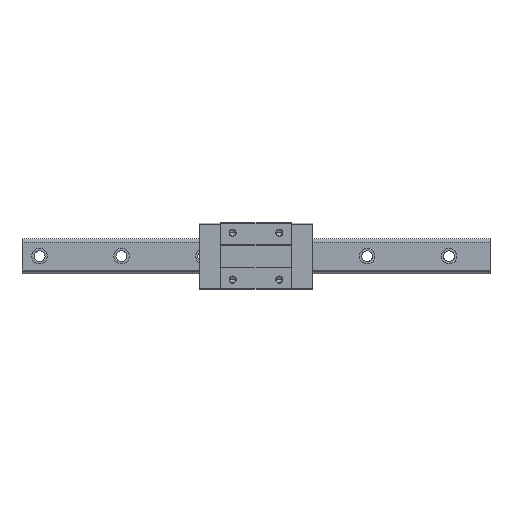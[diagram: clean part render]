
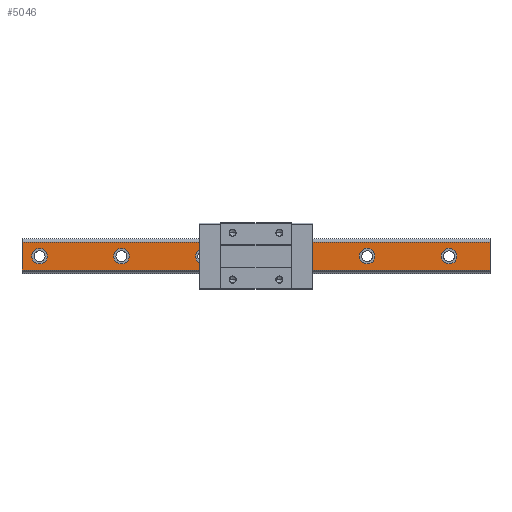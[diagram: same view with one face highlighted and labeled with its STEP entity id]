
A CAD part, top view. The second image highlights one B-rep face of the part: STEP entity #5046.
In plain terms, the highlighted planar face has unit normal (0, 0, 1).
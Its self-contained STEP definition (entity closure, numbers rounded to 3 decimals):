
#26 = ORIENTED_EDGE ( 'NONE', *, *, #5568, .F. ) ;
#131 = DIRECTION ( 'NONE',  ( 1., 0., 0. ) ) ;
#139 = EDGE_CURVE ( 'NONE', #282, #4780, #4176, .T. ) ;
#154 = DIRECTION ( 'NONE',  ( 0., 0., 1. ) ) ;
#172 = CARTESIAN_POINT ( 'NONE',  ( 142.5, 0., 32. ) ) ;
#255 = DIRECTION ( 'NONE',  ( 1., 0., 0. ) ) ;
#272 = CARTESIAN_POINT ( 'NONE',  ( -172.5, 0., 32. ) ) ;
#282 = VERTEX_POINT ( 'NONE', #5027 ) ;
#398 = CARTESIAN_POINT ( 'NONE',  ( 47.5, 0., 32. ) ) ;
#424 = CARTESIAN_POINT ( 'NONE',  ( 300., -17.696, 32. ) ) ;
#434 = CARTESIAN_POINT ( 'NONE',  ( -277.5, 0., 32. ) ) ;
#468 = EDGE_LOOP ( 'NONE', ( #1373, #3272 ) ) ;
#502 = VECTOR ( 'NONE', #4221, 1000. ) ;
#530 = DIRECTION ( 'NONE',  ( 0., 0., 1. ) ) ;
#579 = VERTEX_POINT ( 'NONE', #1427 ) ;
#591 = EDGE_CURVE ( 'NONE', #4317, #985, #3707, .T. ) ;
#646 = AXIS2_PLACEMENT_3D ( 'NONE', #4868, #2243, #5318 ) ;
#733 = CARTESIAN_POINT ( 'NONE',  ( -287.5, 0., 32. ) ) ;
#743 = DIRECTION ( 'NONE',  ( 0., 0., 1. ) ) ;
#759 = DIRECTION ( 'NONE',  ( 1., 0., 0. ) ) ;
#769 = DIRECTION ( 'NONE',  ( 0., 0., 1. ) ) ;
#825 = AXIS2_PLACEMENT_3D ( 'NONE', #4891, #1961, #4105 ) ;
#847 = LINE ( 'NONE', #2502, #502 ) ;
#861 = ORIENTED_EDGE ( 'NONE', *, *, #2532, .F. ) ;
#873 = AXIS2_PLACEMENT_3D ( 'NONE', #5426, #5567, #3930 ) ;
#898 = EDGE_LOOP ( 'NONE', ( #1861, #26 ) ) ;
#940 = VERTEX_POINT ( 'NONE', #1087 ) ;
#968 = DIRECTION ( 'NONE',  ( 0., 0., 1. ) ) ;
#985 = VERTEX_POINT ( 'NONE', #2293 ) ;
#1019 = ORIENTED_EDGE ( 'NONE', *, *, #1551, .F. ) ;
#1057 = CARTESIAN_POINT ( 'NONE',  ( -77.5, 0., 32. ) ) ;
#1087 = CARTESIAN_POINT ( 'NONE',  ( 237.5, 0., 32. ) ) ;
#1099 = ORIENTED_EDGE ( 'NONE', *, *, #4135, .F. ) ;
#1220 = CIRCLE ( 'NONE', #2142, 10. ) ;
#1373 = ORIENTED_EDGE ( 'NONE', *, *, #4866, .F. ) ;
#1413 = EDGE_LOOP ( 'NONE', ( #3062, #1019 ) ) ;
#1427 = CARTESIAN_POINT ( 'NONE',  ( -57.5, 0., 32. ) ) ;
#1429 = CARTESIAN_POINT ( 'NONE',  ( 37.5, 0., 32. ) ) ;
#1505 = CIRCLE ( 'NONE', #873, 10. ) ;
#1551 = EDGE_CURVE ( 'NONE', #1993, #2125, #2122, .T. ) ;
#1601 = CARTESIAN_POINT ( 'NONE',  ( 300., -17.696, 32. ) ) ;
#1631 = ORIENTED_EDGE ( 'NONE', *, *, #4007, .F. ) ;
#1699 = VERTEX_POINT ( 'NONE', #4172 ) ;
#1708 = CARTESIAN_POINT ( 'NONE',  ( -300., -17.696, 32. ) ) ;
#1738 = AXIS2_PLACEMENT_3D ( 'NONE', #172, #3651, #255 ) ;
#1837 = AXIS2_PLACEMENT_3D ( 'NONE', #2637, #968, #3974 ) ;
#1861 = ORIENTED_EDGE ( 'NONE', *, *, #3904, .F. ) ;
#1905 = FACE_BOUND ( 'NONE', #4383, .T. ) ;
#1961 = DIRECTION ( 'NONE',  ( 0., 0., -1. ) ) ;
#1985 = DIRECTION ( 'NONE',  ( 0., 0., 1. ) ) ;
#1993 = VERTEX_POINT ( 'NONE', #733 ) ;
#2008 = AXIS2_PLACEMENT_3D ( 'NONE', #434, #743, #2957 ) ;
#2010 = FACE_BOUND ( 'NONE', #1413, .T. ) ;
#2042 = CARTESIAN_POINT ( 'NONE',  ( -67.5, 0., 32. ) ) ;
#2072 = VERTEX_POINT ( 'NONE', #398 ) ;
#2094 = CIRCLE ( 'NONE', #3264, 10. ) ;
#2097 = LINE ( 'NONE', #424, #5379 ) ;
#2122 = CIRCLE ( 'NONE', #2484, 10. ) ;
#2125 = VERTEX_POINT ( 'NONE', #5524 ) ;
#2142 = AXIS2_PLACEMENT_3D ( 'NONE', #4707, #2624, #3438 ) ;
#2184 = ORIENTED_EDGE ( 'NONE', *, *, #4974, .F. ) ;
#2243 = DIRECTION ( 'NONE',  ( 0., 0., 1. ) ) ;
#2274 = CIRCLE ( 'NONE', #1738, 10. ) ;
#2293 = CARTESIAN_POINT ( 'NONE',  ( 300., -17.696, 32. ) ) ;
#2319 = CARTESIAN_POINT ( 'NONE',  ( -172.5, 0., 32. ) ) ;
#2356 = VERTEX_POINT ( 'NONE', #3728 ) ;
#2427 = DIRECTION ( 'NONE',  ( 0., 0., 1. ) ) ;
#2484 = AXIS2_PLACEMENT_3D ( 'NONE', #5312, #2427, #131 ) ;
#2502 = CARTESIAN_POINT ( 'NONE',  ( 300., 17.696, 32. ) ) ;
#2504 = DIRECTION ( 'NONE',  ( 1., 0., 0. ) ) ;
#2526 = DIRECTION ( 'NONE',  ( -1., 0., 0. ) ) ;
#2528 = CARTESIAN_POINT ( 'NONE',  ( -182.5, 0., 32. ) ) ;
#2532 = EDGE_CURVE ( 'NONE', #3217, #579, #4381, .T. ) ;
#2593 = CARTESIAN_POINT ( 'NONE',  ( 152.5, 0., 32. ) ) ;
#2596 = AXIS2_PLACEMENT_3D ( 'NONE', #1429, #154, #3157 ) ;
#2624 = DIRECTION ( 'NONE',  ( 0., 0., 1. ) ) ;
#2637 = CARTESIAN_POINT ( 'NONE',  ( 37.5, 0., 32. ) ) ;
#2639 = CIRCLE ( 'NONE', #3089, 10. ) ;
#2700 = VERTEX_POINT ( 'NONE', #5263 ) ;
#2738 = AXIS2_PLACEMENT_3D ( 'NONE', #2319, #530, #4511 ) ;
#2782 = FACE_OUTER_BOUND ( 'NONE', #3591, .T. ) ;
#2829 = PLANE ( 'NONE',  #825 ) ;
#2915 = DIRECTION ( 'NONE',  ( 0., -1., 0. ) ) ;
#2957 = DIRECTION ( 'NONE',  ( 1., 0., 0. ) ) ;
#3001 = VERTEX_POINT ( 'NONE', #4831 ) ;
#3062 = ORIENTED_EDGE ( 'NONE', *, *, #5251, .F. ) ;
#3089 = AXIS2_PLACEMENT_3D ( 'NONE', #4636, #769, #2504 ) ;
#3149 = ORIENTED_EDGE ( 'NONE', *, *, #3608, .T. ) ;
#3157 = DIRECTION ( 'NONE',  ( 1., 0., 0. ) ) ;
#3217 = VERTEX_POINT ( 'NONE', #1057 ) ;
#3225 = FACE_BOUND ( 'NONE', #4898, .T. ) ;
#3264 = AXIS2_PLACEMENT_3D ( 'NONE', #272, #1985, #5428 ) ;
#3272 = ORIENTED_EDGE ( 'NONE', *, *, #4681, .F. ) ;
#3276 = FACE_BOUND ( 'NONE', #468, .T. ) ;
#3284 = ORIENTED_EDGE ( 'NONE', *, *, #591, .F. ) ;
#3438 = DIRECTION ( 'NONE',  ( 1., 0., 0. ) ) ;
#3449 = CIRCLE ( 'NONE', #1837, 10. ) ;
#3506 = EDGE_CURVE ( 'NONE', #985, #2700, #2097, .T. ) ;
#3591 = EDGE_LOOP ( 'NONE', ( #5216, #4454, #3284, #3149 ) ) ;
#3608 = EDGE_CURVE ( 'NONE', #4317, #3001, #847, .T. ) ;
#3651 = DIRECTION ( 'NONE',  ( 0., 0., 1. ) ) ;
#3697 = FACE_BOUND ( 'NONE', #4576, .T. ) ;
#3707 = LINE ( 'NONE', #1601, #4631 ) ;
#3713 = CIRCLE ( 'NONE', #2008, 10. ) ;
#3728 = CARTESIAN_POINT ( 'NONE',  ( 27.5, 0., 32. ) ) ;
#3738 = AXIS2_PLACEMENT_3D ( 'NONE', #2042, #5126, #759 ) ;
#3904 = EDGE_CURVE ( 'NONE', #1699, #940, #1505, .T. ) ;
#3930 = DIRECTION ( 'NONE',  ( 1., 0., 0. ) ) ;
#3974 = DIRECTION ( 'NONE',  ( 1., 0., 0. ) ) ;
#4007 = EDGE_CURVE ( 'NONE', #579, #3217, #1220, .T. ) ;
#4105 = DIRECTION ( 'NONE',  ( -1., 0., 0. ) ) ;
#4135 = EDGE_CURVE ( 'NONE', #2356, #2072, #5387, .T. ) ;
#4154 = FACE_BOUND ( 'NONE', #898, .T. ) ;
#4172 = CARTESIAN_POINT ( 'NONE',  ( 257.5, 0., 32. ) ) ;
#4176 = CIRCLE ( 'NONE', #2738, 10. ) ;
#4182 = ORIENTED_EDGE ( 'NONE', *, *, #139, .F. ) ;
#4197 = CARTESIAN_POINT ( 'NONE',  ( 132.5, 0., 32. ) ) ;
#4221 = DIRECTION ( 'NONE',  ( -1., 0., 0. ) ) ;
#4235 = VERTEX_POINT ( 'NONE', #4197 ) ;
#4317 = VERTEX_POINT ( 'NONE', #4701 ) ;
#4325 = VERTEX_POINT ( 'NONE', #2593 ) ;
#4381 = CIRCLE ( 'NONE', #3738, 10. ) ;
#4383 = EDGE_LOOP ( 'NONE', ( #4182, #4690 ) ) ;
#4449 = CIRCLE ( 'NONE', #646, 10. ) ;
#4454 = ORIENTED_EDGE ( 'NONE', *, *, #3506, .F. ) ;
#4511 = DIRECTION ( 'NONE',  ( 1., 0., 0. ) ) ;
#4563 = DIRECTION ( 'NONE',  ( 0., -1., 0. ) ) ;
#4576 = EDGE_LOOP ( 'NONE', ( #1631, #861 ) ) ;
#4631 = VECTOR ( 'NONE', #4563, 1000. ) ;
#4636 = CARTESIAN_POINT ( 'NONE',  ( 142.5, 0., 32. ) ) ;
#4681 = EDGE_CURVE ( 'NONE', #4235, #4325, #2274, .T. ) ;
#4690 = ORIENTED_EDGE ( 'NONE', *, *, #5047, .F. ) ;
#4701 = CARTESIAN_POINT ( 'NONE',  ( 300., 17.696, 32. ) ) ;
#4707 = CARTESIAN_POINT ( 'NONE',  ( -67.5, 0., 32. ) ) ;
#4780 = VERTEX_POINT ( 'NONE', #2528 ) ;
#4831 = CARTESIAN_POINT ( 'NONE',  ( -300., 17.696, 32. ) ) ;
#4866 = EDGE_CURVE ( 'NONE', #4325, #4235, #2639, .T. ) ;
#4868 = CARTESIAN_POINT ( 'NONE',  ( 247.5, 0., 32. ) ) ;
#4891 = CARTESIAN_POINT ( 'NONE',  ( 300., -17.696, 32. ) ) ;
#4898 = EDGE_LOOP ( 'NONE', ( #2184, #1099 ) ) ;
#4974 = EDGE_CURVE ( 'NONE', #2072, #2356, #3449, .T. ) ;
#5027 = CARTESIAN_POINT ( 'NONE',  ( -162.5, 0., 32. ) ) ;
#5046 = ADVANCED_FACE ( 'NONE', ( #4154, #3276, #3225, #3697, #1905, #2010, #2782 ), #2829, .F. ) ;
#5047 = EDGE_CURVE ( 'NONE', #4780, #282, #2094, .T. ) ;
#5065 = LINE ( 'NONE', #1708, #5439 ) ;
#5126 = DIRECTION ( 'NONE',  ( 0., 0., 1. ) ) ;
#5216 = ORIENTED_EDGE ( 'NONE', *, *, #5474, .T. ) ;
#5251 = EDGE_CURVE ( 'NONE', #2125, #1993, #3713, .T. ) ;
#5263 = CARTESIAN_POINT ( 'NONE',  ( -300., -17.696, 32. ) ) ;
#5312 = CARTESIAN_POINT ( 'NONE',  ( -277.5, 0., 32. ) ) ;
#5318 = DIRECTION ( 'NONE',  ( 1., 0., 0. ) ) ;
#5379 = VECTOR ( 'NONE', #2526, 1000. ) ;
#5387 = CIRCLE ( 'NONE', #2596, 10. ) ;
#5426 = CARTESIAN_POINT ( 'NONE',  ( 247.5, 0., 32. ) ) ;
#5428 = DIRECTION ( 'NONE',  ( 1., 0., 0. ) ) ;
#5439 = VECTOR ( 'NONE', #2915, 1000. ) ;
#5474 = EDGE_CURVE ( 'NONE', #3001, #2700, #5065, .T. ) ;
#5524 = CARTESIAN_POINT ( 'NONE',  ( -267.5, 0., 32. ) ) ;
#5567 = DIRECTION ( 'NONE',  ( 0., 0., 1. ) ) ;
#5568 = EDGE_CURVE ( 'NONE', #940, #1699, #4449, .T. ) ;
